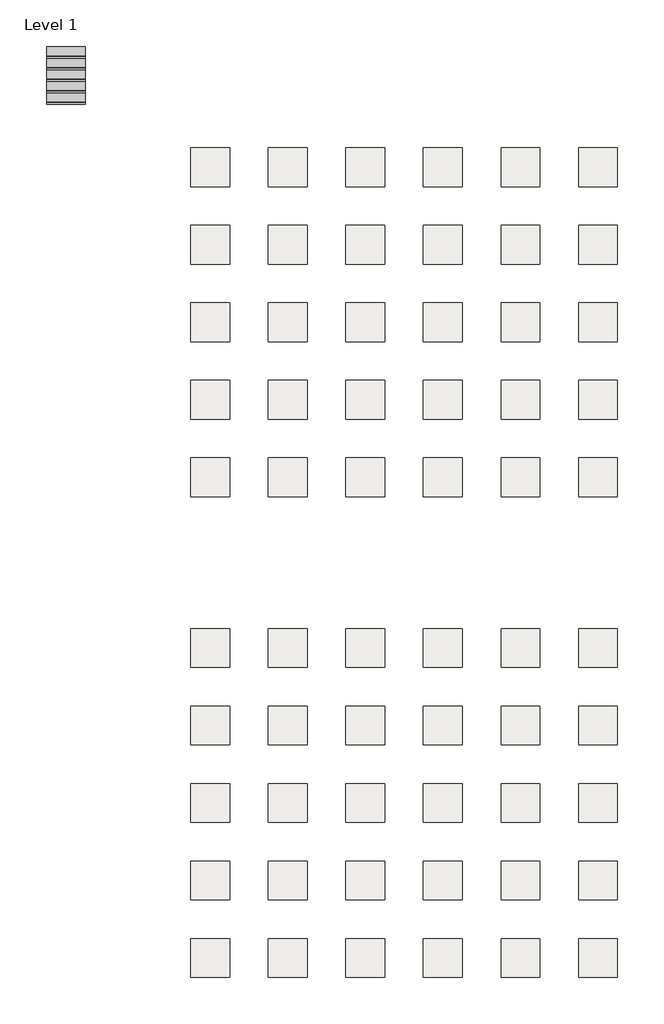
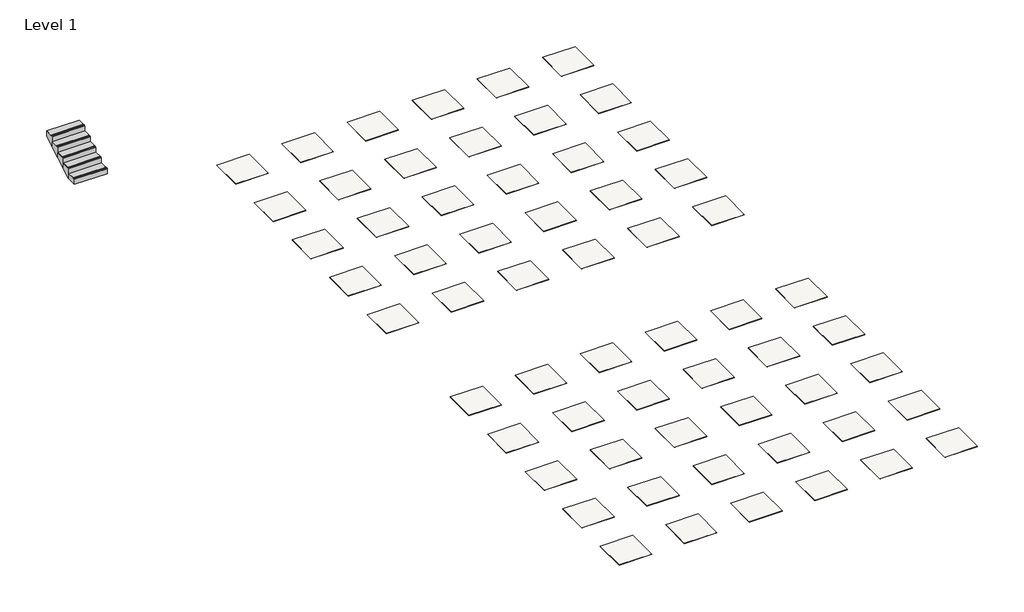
# One storey: 60 coverings, 1 stair flight.
"""IFC4 building model written with IfcOpenShell, lengths in millimetres."""

from ifc_helpers import new_model, si_unit, frame, origin, place, context, project, spatial, polyline, outline, extrude, faceted_brep, element, save

model = new_model("IFC4")

# Units and contexts
model_context = context("Model", 3, world=origin())
ifc_project = project(units=[si_unit("LENGTHUNIT", "METRE", prefix="MILLI")], contexts=[model_context])

# Site, building, storey
site = spatial("IfcSite", under=ifc_project)
building = spatial("IfcBuilding", under=site)
storey = spatial("IfcBuildingStorey", under=building, Name="Level 1", Elevation=0.0)

# Coverings
placement = place(None, origin())
element("IfcCovering", 1, ObjectType="REVIGRÉS-OMNISTONE-DG-30X60-MATTRECT-BONE", at=placement, inside=storey, context=model_context, shape_type="SweptSolid", body=[
    extrude(outline(polyline([(32008.2238844, 9811.2034686), (31008.2238844, 9811.2034686), (31008.2238844, 10811.2034686), (32008.2238844, 10811.2034686), (32008.2238844, 9811.2034686)])), frame((0.0, 0.0, -9.8), z_axis=(0.0, 0.0, 1.0), x_axis=(1.0, 0.0, 0.0)), (0.0, 0.0, 1.0), 9.8),
])
element("IfcCovering", 2, ObjectType="REVIGRÉS-OMNISTONE-DG-60X60-MATTRECT-BONE", at=placement, inside=storey, context=model_context, shape_type="SweptSolid", body=[
    extrude(outline(polyline([(32008.2238844, 13811.2034686), (31008.2238844, 13811.2034686), (31008.2238844, 14811.2034686), (32008.2238844, 14811.2034686), (32008.2238844, 13811.2034686)])), frame((0.0, 0.0, -9.8), z_axis=(0.0, 0.0, 1.0), x_axis=(1.0, 0.0, 0.0)), (0.0, 0.0, 1.0), 9.8),
])
element("IfcCovering", 3, ObjectType="REVIGRÉS-OMNISTONE-DG-60X120-MATTRECT-BONE", at=placement, inside=storey, context=model_context, shape_type="SweptSolid", body=[
    extrude(outline(polyline([(32008.2238844, 15811.2034686), (31008.2238844, 15811.2034686), (31008.2238844, 16811.2034686), (32008.2238844, 16811.2034686), (32008.2238844, 15811.2034686)])), frame((0.0, 0.0, -9.8), z_axis=(0.0, 0.0, 1.0), x_axis=(1.0, 0.0, 0.0)), (0.0, 0.0, 1.0), 9.8),
])
element("IfcCovering", 4, ObjectType="REVIGRÉS-OMNISTONE-DG-45X90-MATTRECT-BONE", at=placement, inside=storey, context=model_context, shape_type="SweptSolid", body=[
    extrude(outline(polyline([(32008.2238844, 17811.2034686), (31008.2238844, 17811.2034686), (31008.2238844, 18811.2034686), (32008.2238844, 18811.2034686), (32008.2238844, 17811.2034686)])), frame((0.0, 0.0, -10.5), z_axis=(0.0, 0.0, 1.0), x_axis=(1.0, 0.0, 0.0)), (0.0, 0.0, 1.0), 10.5),
])
element("IfcCovering", 5, ObjectType="REVIGRÉS-OMNISTONE-DG-30X60-SOFT-BONE", at=placement, inside=storey, context=model_context, shape_type="SweptSolid", body=[
    extrude(outline(polyline([(34008.2238844, 9811.2034686), (33008.2238844, 9811.2034686), (33008.2238844, 10811.2034686), (34008.2238844, 10811.2034686), (34008.2238844, 9811.2034686)])), frame((0.0, 0.0, -9.8), z_axis=(0.0, 0.0, 1.0), x_axis=(1.0, 0.0, 0.0)), (0.0, 0.0, 1.0), 9.8),
])
element("IfcCovering", 6, ObjectType="REVIGRÉS-OMNISTONE-DG-60X60-SOFT-BONE", at=placement, inside=storey, context=model_context, shape_type="SweptSolid", body=[
    extrude(outline(polyline([(34008.2238844, 13811.2034686), (33008.2238844, 13811.2034686), (33008.2238844, 14811.2034686), (34008.2238844, 14811.2034686), (34008.2238844, 13811.2034686)])), frame((0.0, 0.0, -9.8), z_axis=(0.0, 0.0, 1.0), x_axis=(1.0, 0.0, 0.0)), (0.0, 0.0, 1.0), 9.8),
])
element("IfcCovering", 7, ObjectType="REVIGRÉS-OMNISTONE-DG-60X120-SOFT-BONE", at=placement, inside=storey, context=model_context, shape_type="SweptSolid", body=[
    extrude(outline(polyline([(34008.2238844, 15811.2034686), (33008.2238844, 15811.2034686), (33008.2238844, 16811.2034686), (34008.2238844, 16811.2034686), (34008.2238844, 15811.2034686)])), frame((0.0, 0.0, -9.8), z_axis=(0.0, 0.0, 1.0), x_axis=(1.0, 0.0, 0.0)), (0.0, 0.0, 1.0), 9.8),
])
element("IfcCovering", 8, ObjectType="REVIGRÉS-OMNISTONE-DG-45X90-SOFT-BONE", at=placement, inside=storey, context=model_context, shape_type="SweptSolid", body=[
    extrude(outline(polyline([(34008.2238844, 17811.2034686), (33008.2238844, 17811.2034686), (33008.2238844, 18811.2034686), (34008.2238844, 18811.2034686), (34008.2238844, 17811.2034686)])), frame((0.0, 0.0, -10.5), z_axis=(0.0, 0.0, 1.0), x_axis=(1.0, 0.0, 0.0)), (0.0, 0.0, 1.0), 10.5),
])
element("IfcCovering", 9, ObjectType="REVIGRÉS-OMNISTONE-DG-30X60-MATTRECT-ICE", at=placement, inside=storey, context=model_context, shape_type="SweptSolid", body=[
    extrude(outline(polyline([(36008.2238844, 9811.2034686), (35008.2238844, 9811.2034686), (35008.2238844, 10811.2034686), (36008.2238844, 10811.2034686), (36008.2238844, 9811.2034686)])), frame((0.0, 0.0, -9.8), z_axis=(0.0, 0.0, 1.0), x_axis=(1.0, 0.0, 0.0)), (0.0, 0.0, 1.0), 9.8),
])
element("IfcCovering", 10, ObjectType="REVIGRÉS-OMNISTONE-DG-60X60-MATTRECT-ICE", at=placement, inside=storey, context=model_context, shape_type="SweptSolid", body=[
    extrude(outline(polyline([(36008.2238844, 13811.2034686), (35008.2238844, 13811.2034686), (35008.2238844, 14811.2034686), (36008.2238844, 14811.2034686), (36008.2238844, 13811.2034686)])), frame((0.0, 0.0, -9.8), z_axis=(0.0, 0.0, 1.0), x_axis=(1.0, 0.0, 0.0)), (0.0, 0.0, 1.0), 9.8),
])
element("IfcCovering", 11, ObjectType="REVIGRÉS-OMNISTONE-DG-60X120-MATTRECT-ICE", at=placement, inside=storey, context=model_context, shape_type="SweptSolid", body=[
    extrude(outline(polyline([(36008.2238844, 15811.2034686), (35008.2238844, 15811.2034686), (35008.2238844, 16811.2034686), (36008.2238844, 16811.2034686), (36008.2238844, 15811.2034686)])), frame((0.0, 0.0, -9.8), z_axis=(0.0, 0.0, 1.0), x_axis=(1.0, 0.0, 0.0)), (0.0, 0.0, 1.0), 9.8),
])
element("IfcCovering", 12, ObjectType="REVIGRÉS-OMNISTONE-DG-45X90-MATTRECT-ICE", at=placement, inside=storey, context=model_context, shape_type="SweptSolid", body=[
    extrude(outline(polyline([(36008.2238844, 17811.2034686), (35008.2238844, 17811.2034686), (35008.2238844, 18811.2034686), (36008.2238844, 18811.2034686), (36008.2238844, 17811.2034686)])), frame((0.0, 0.0, -10.5), z_axis=(0.0, 0.0, 1.0), x_axis=(1.0, 0.0, 0.0)), (0.0, 0.0, 1.0), 10.5),
])
element("IfcCovering", 13, ObjectType="REVIGRÉS-OMNISTONE-DG-30X60-SOFT-ICE", at=placement, inside=storey, context=model_context, shape_type="SweptSolid", body=[
    extrude(outline(polyline([(38008.2238844, 9811.2034686), (37008.2238844, 9811.2034686), (37008.2238844, 10811.2034686), (38008.2238844, 10811.2034686), (38008.2238844, 9811.2034686)])), frame((0.0, 0.0, -9.8), z_axis=(0.0, 0.0, 1.0), x_axis=(1.0, 0.0, 0.0)), (0.0, 0.0, 1.0), 9.8),
])
element("IfcCovering", 14, ObjectType="REVIGRÉS-OMNISTONE-DG-60X60-SOFT-ICE", at=placement, inside=storey, context=model_context, shape_type="SweptSolid", body=[
    extrude(outline(polyline([(38008.2238844, 13811.2034686), (37008.2238844, 13811.2034686), (37008.2238844, 14811.2034686), (38008.2238844, 14811.2034686), (38008.2238844, 13811.2034686)])), frame((0.0, 0.0, -9.8), z_axis=(0.0, 0.0, 1.0), x_axis=(1.0, 0.0, 0.0)), (0.0, 0.0, 1.0), 9.8),
])
element("IfcCovering", 15, ObjectType="REVIGRÉS-OMNISTONE-DG-60X120-SOFT-ICE", at=placement, inside=storey, context=model_context, shape_type="SweptSolid", body=[
    extrude(outline(polyline([(38008.2238844, 15811.2034686), (37008.2238844, 15811.2034686), (37008.2238844, 16811.2034686), (38008.2238844, 16811.2034686), (38008.2238844, 15811.2034686)])), frame((0.0, 0.0, -9.8), z_axis=(0.0, 0.0, 1.0), x_axis=(1.0, 0.0, 0.0)), (0.0, 0.0, 1.0), 9.8),
])
element("IfcCovering", 16, ObjectType="REVIGRÉS-OMNISTONE-DG-45X90-SOFT-ICE", at=placement, inside=storey, context=model_context, shape_type="SweptSolid", body=[
    extrude(outline(polyline([(38008.2238844, 17811.2034686), (37008.2238844, 17811.2034686), (37008.2238844, 18811.2034686), (38008.2238844, 18811.2034686), (38008.2238844, 17811.2034686)])), frame((0.0, 0.0, -10.5), z_axis=(0.0, 0.0, 1.0), x_axis=(1.0, 0.0, 0.0)), (0.0, 0.0, 1.0), 10.5),
])
element("IfcCovering", 17, ObjectType="REVIGRÉS-OMNISTONE-DG-30X60-MATTRECT-IRON", at=placement, inside=storey, context=model_context, shape_type="SweptSolid", body=[
    extrude(outline(polyline([(40008.2238844, 9811.2034686), (39008.2238844, 9811.2034686), (39008.2238844, 10811.2034686), (40008.2238844, 10811.2034686), (40008.2238844, 9811.2034686)])), frame((0.0, 0.0, -9.8), z_axis=(0.0, 0.0, 1.0), x_axis=(1.0, 0.0, 0.0)), (0.0, 0.0, 1.0), 9.8),
])
element("IfcCovering", 18, ObjectType="REVIGRÉS-OMNISTONE-DG-60X60-MATTRECT-IRON", at=placement, inside=storey, context=model_context, shape_type="SweptSolid", body=[
    extrude(outline(polyline([(40008.2238844, 13811.2034686), (39008.2238844, 13811.2034686), (39008.2238844, 14811.2034686), (40008.2238844, 14811.2034686), (40008.2238844, 13811.2034686)])), frame((0.0, 0.0, -9.8), z_axis=(0.0, 0.0, 1.0), x_axis=(1.0, 0.0, 0.0)), (0.0, 0.0, 1.0), 9.8),
])
element("IfcCovering", 19, ObjectType="REVIGRÉS-OMNISTONE-DG-60X120-MATTRECT-IRON", at=placement, inside=storey, context=model_context, shape_type="SweptSolid", body=[
    extrude(outline(polyline([(40008.2238844, 15811.2034686), (39008.2238844, 15811.2034686), (39008.2238844, 16811.2034686), (40008.2238844, 16811.2034686), (40008.2238844, 15811.2034686)])), frame((0.0, 0.0, -9.8), z_axis=(0.0, 0.0, 1.0), x_axis=(1.0, 0.0, 0.0)), (0.0, 0.0, 1.0), 9.8),
])
element("IfcCovering", 20, ObjectType="REVIGRÉS-OMNISTONE-DG-45X90-MATTRECT-IRON", at=placement, inside=storey, context=model_context, shape_type="SweptSolid", body=[
    extrude(outline(polyline([(40008.2238844, 17811.2034686), (39008.2238844, 17811.2034686), (39008.2238844, 18811.2034686), (40008.2238844, 18811.2034686), (40008.2238844, 17811.2034686)])), frame((0.0, 0.0, -10.5), z_axis=(0.0, 0.0, 1.0), x_axis=(1.0, 0.0, 0.0)), (0.0, 0.0, 1.0), 10.5),
])
element("IfcCovering", 21, ObjectType="REVIGRÉS-OMNISTONE-DG-30X60-SOFT-IRON", at=placement, inside=storey, context=model_context, shape_type="SweptSolid", body=[
    extrude(outline(polyline([(42008.2238844, 9811.2034686), (41008.2238844, 9811.2034686), (41008.2238844, 10811.2034686), (42008.2238844, 10811.2034686), (42008.2238844, 9811.2034686)])), frame((0.0, 0.0, -9.8), z_axis=(0.0, 0.0, 1.0), x_axis=(1.0, 0.0, 0.0)), (0.0, 0.0, 1.0), 9.8),
])
element("IfcCovering", 22, ObjectType="REVIGRÉS-OMNISTONE-DG-60X60-SOFT-IRON", at=placement, inside=storey, context=model_context, shape_type="SweptSolid", body=[
    extrude(outline(polyline([(42008.2238844, 13811.2034686), (41008.2238844, 13811.2034686), (41008.2238844, 14811.2034686), (42008.2238844, 14811.2034686), (42008.2238844, 13811.2034686)])), frame((0.0, 0.0, -9.8), z_axis=(0.0, 0.0, 1.0), x_axis=(1.0, 0.0, 0.0)), (0.0, 0.0, 1.0), 9.8),
])
element("IfcCovering", 23, ObjectType="REVIGRÉS-OMNISTONE-DG-60X120-SOFT-IRON", at=placement, inside=storey, context=model_context, shape_type="SweptSolid", body=[
    extrude(outline(polyline([(42008.2238844, 15811.2034686), (41008.2238844, 15811.2034686), (41008.2238844, 16811.2034686), (42008.2238844, 16811.2034686), (42008.2238844, 15811.2034686)])), frame((0.0, 0.0, -9.8), z_axis=(0.0, 0.0, 1.0), x_axis=(1.0, 0.0, 0.0)), (0.0, 0.0, 1.0), 9.8),
])
element("IfcCovering", 24, ObjectType="REVIGRÉS-OMNISTONE-DG-45X90-SOFT-IRON", at=placement, inside=storey, context=model_context, shape_type="SweptSolid", body=[
    extrude(outline(polyline([(42008.2238844, 17811.2034686), (41008.2238844, 17811.2034686), (41008.2238844, 18811.2034686), (42008.2238844, 18811.2034686), (42008.2238844, 17811.2034686)])), frame((0.0, 0.0, -10.5), z_axis=(0.0, 0.0, 1.0), x_axis=(1.0, 0.0, 0.0)), (0.0, 0.0, 1.0), 10.5),
])
element("IfcCovering", 25, ObjectType="REVIGRÉS-OMNISTONE-DG-30X60-MATTRECT-JET", at=placement, inside=storey, context=model_context, shape_type="SweptSolid", body=[
    extrude(outline(polyline([(32008.2238844, -2588.7965314), (31008.2238844, -2588.7965314), (31008.2238844, -1588.7965314), (32008.2238844, -1588.7965314), (32008.2238844, -2588.7965314)])), frame((0.0, 0.0, -9.8), z_axis=(0.0, 0.0, 1.0), x_axis=(1.0, 0.0, 0.0)), (0.0, 0.0, 1.0), 9.8),
])
element("IfcCovering", 26, ObjectType="REVIGRÉS-OMNISTONE-DG-60X60-MATTRECT-JET", at=placement, inside=storey, context=model_context, shape_type="SweptSolid", body=[
    extrude(outline(polyline([(32008.2238844, 1411.2034686), (31008.2238844, 1411.2034686), (31008.2238844, 2411.2034686), (32008.2238844, 2411.2034686), (32008.2238844, 1411.2034686)])), frame((0.0, 0.0, -9.8), z_axis=(0.0, 0.0, 1.0), x_axis=(1.0, 0.0, 0.0)), (0.0, 0.0, 1.0), 9.8),
])
element("IfcCovering", 27, ObjectType="REVIGRÉS-OMNISTONE-DG-60X120-MATTRECT-JET", at=placement, inside=storey, context=model_context, shape_type="SweptSolid", body=[
    extrude(outline(polyline([(32008.2238844, 3411.2034686), (31008.2238844, 3411.2034686), (31008.2238844, 4411.2034686), (32008.2238844, 4411.2034686), (32008.2238844, 3411.2034686)])), frame((0.0, 0.0, -9.8), z_axis=(0.0, 0.0, 1.0), x_axis=(1.0, 0.0, 0.0)), (0.0, 0.0, 1.0), 9.8),
])
element("IfcCovering", 28, ObjectType="REVIGRÉS-OMNISTONE-DG-45X90-MATTRECT-JET", at=placement, inside=storey, context=model_context, shape_type="SweptSolid", body=[
    extrude(outline(polyline([(32008.2238844, 5411.2034686), (31008.2238844, 5411.2034686), (31008.2238844, 6411.2034686), (32008.2238844, 6411.2034686), (32008.2238844, 5411.2034686)])), frame((0.0, 0.0, -10.5), z_axis=(0.0, 0.0, 1.0), x_axis=(1.0, 0.0, 0.0)), (0.0, 0.0, 1.0), 10.5),
])
element("IfcCovering", 29, ObjectType="REVIGRÉS-OMNISTONE-DG-30X60-SOFT-JET", at=placement, inside=storey, context=model_context, shape_type="SweptSolid", body=[
    extrude(outline(polyline([(34008.2238844, -2588.7965314), (33008.2238844, -2588.7965314), (33008.2238844, -1588.7965314), (34008.2238844, -1588.7965314), (34008.2238844, -2588.7965314)])), frame((0.0, 0.0, -9.8), z_axis=(0.0, 0.0, 1.0), x_axis=(1.0, 0.0, 0.0)), (0.0, 0.0, 1.0), 9.8),
])
element("IfcCovering", 30, ObjectType="REVIGRÉS-OMNISTONE-DG-60X60-SOFT-JET", at=placement, inside=storey, context=model_context, shape_type="SweptSolid", body=[
    extrude(outline(polyline([(34008.2238844, 1411.2034686), (33008.2238844, 1411.2034686), (33008.2238844, 2411.2034686), (34008.2238844, 2411.2034686), (34008.2238844, 1411.2034686)])), frame((0.0, 0.0, -9.8), z_axis=(0.0, 0.0, 1.0), x_axis=(1.0, 0.0, 0.0)), (0.0, 0.0, 1.0), 9.8),
])
element("IfcCovering", 31, ObjectType="REVIGRÉS-OMNISTONE-DG-60X120-SOFT-JET", at=placement, inside=storey, context=model_context, shape_type="SweptSolid", body=[
    extrude(outline(polyline([(34008.2238844, 3411.2034686), (33008.2238844, 3411.2034686), (33008.2238844, 4411.2034686), (34008.2238844, 4411.2034686), (34008.2238844, 3411.2034686)])), frame((0.0, 0.0, -9.8), z_axis=(0.0, 0.0, 1.0), x_axis=(1.0, 0.0, 0.0)), (0.0, 0.0, 1.0), 9.8),
])
element("IfcCovering", 32, ObjectType="REVIGRÉS-OMNISTONE-DG-45X90-SOFT-JET", at=placement, inside=storey, context=model_context, shape_type="SweptSolid", body=[
    extrude(outline(polyline([(34008.2238844, 5411.2034686), (33008.2238844, 5411.2034686), (33008.2238844, 6411.2034686), (34008.2238844, 6411.2034686), (34008.2238844, 5411.2034686)])), frame((0.0, 0.0, -10.5), z_axis=(0.0, 0.0, 1.0), x_axis=(1.0, 0.0, 0.0)), (0.0, 0.0, 1.0), 10.5),
])
element("IfcCovering", 33, ObjectType="REVIGRÉS-OMNISTONE-DG-30X60-MATTRECT-PLATINA", at=placement, inside=storey, context=model_context, shape_type="SweptSolid", body=[
    extrude(outline(polyline([(36008.2238844, -2588.7965314), (35008.2238844, -2588.7965314), (35008.2238844, -1588.7965314), (36008.2238844, -1588.7965314), (36008.2238844, -2588.7965314)])), frame((0.0, 0.0, -9.8), z_axis=(0.0, 0.0, 1.0), x_axis=(1.0, 0.0, 0.0)), (0.0, 0.0, 1.0), 9.8),
])
element("IfcCovering", 34, ObjectType="REVIGRÉS-OMNISTONE-DG-60X60-MATTRECT-PLATINA", at=placement, inside=storey, context=model_context, shape_type="SweptSolid", body=[
    extrude(outline(polyline([(36008.2238844, 1411.2034686), (35008.2238844, 1411.2034686), (35008.2238844, 2411.2034686), (36008.2238844, 2411.2034686), (36008.2238844, 1411.2034686)])), frame((0.0, 0.0, -9.8), z_axis=(0.0, 0.0, 1.0), x_axis=(1.0, 0.0, 0.0)), (0.0, 0.0, 1.0), 9.8),
])
element("IfcCovering", 35, ObjectType="REVIGRÉS-OMNISTONE-DG-60X120-MATTRECT-PLATINA", at=placement, inside=storey, context=model_context, shape_type="SweptSolid", body=[
    extrude(outline(polyline([(36008.2238844, 3411.2034686), (35008.2238844, 3411.2034686), (35008.2238844, 4411.2034686), (36008.2238844, 4411.2034686), (36008.2238844, 3411.2034686)])), frame((0.0, 0.0, -9.8), z_axis=(0.0, 0.0, 1.0), x_axis=(1.0, 0.0, 0.0)), (0.0, 0.0, 1.0), 9.8),
])
element("IfcCovering", 36, ObjectType="REVIGRÉS-OMNISTONE-DG-45X90-MATTRECT-PLATINA", at=placement, inside=storey, context=model_context, shape_type="SweptSolid", body=[
    extrude(outline(polyline([(36008.2238844, 5411.2034686), (35008.2238844, 5411.2034686), (35008.2238844, 6411.2034686), (36008.2238844, 6411.2034686), (36008.2238844, 5411.2034686)])), frame((0.0, 0.0, -10.5), z_axis=(0.0, 0.0, 1.0), x_axis=(1.0, 0.0, 0.0)), (0.0, 0.0, 1.0), 10.5),
])
element("IfcCovering", 37, ObjectType="REVIGRÉS-OMNISTONE-DG-30X60-SOFT-PLATINA", at=placement, inside=storey, context=model_context, shape_type="SweptSolid", body=[
    extrude(outline(polyline([(38008.2238844, -2588.7965314), (37008.2238844, -2588.7965314), (37008.2238844, -1588.7965314), (38008.2238844, -1588.7965314), (38008.2238844, -2588.7965314)])), frame((0.0, 0.0, -9.8), z_axis=(0.0, 0.0, 1.0), x_axis=(1.0, 0.0, 0.0)), (0.0, 0.0, 1.0), 9.8),
])
element("IfcCovering", 38, ObjectType="REVIGRÉS-OMNISTONE-DG-60X60-SOFT-PLATINA", at=placement, inside=storey, context=model_context, shape_type="SweptSolid", body=[
    extrude(outline(polyline([(38008.2238844, 1411.2034686), (37008.2238844, 1411.2034686), (37008.2238844, 2411.2034686), (38008.2238844, 2411.2034686), (38008.2238844, 1411.2034686)])), frame((0.0, 0.0, -9.8), z_axis=(0.0, 0.0, 1.0), x_axis=(1.0, 0.0, 0.0)), (0.0, 0.0, 1.0), 9.8),
])
element("IfcCovering", 39, ObjectType="REVIGRÉS-OMNISTONE-DG-60X120-SOFT-PLATINA", at=placement, inside=storey, context=model_context, shape_type="SweptSolid", body=[
    extrude(outline(polyline([(38008.2238844, 3411.2034686), (37008.2238844, 3411.2034686), (37008.2238844, 4411.2034686), (38008.2238844, 4411.2034686), (38008.2238844, 3411.2034686)])), frame((0.0, 0.0, -9.8), z_axis=(0.0, 0.0, 1.0), x_axis=(1.0, 0.0, 0.0)), (0.0, 0.0, 1.0), 9.8),
])
element("IfcCovering", 40, ObjectType="REVIGRÉS-OMNISTONE-DG-45X90-SOFT-PLATINA", at=placement, inside=storey, context=model_context, shape_type="SweptSolid", body=[
    extrude(outline(polyline([(38008.2238844, 5411.2034686), (37008.2238844, 5411.2034686), (37008.2238844, 6411.2034686), (38008.2238844, 6411.2034686), (38008.2238844, 5411.2034686)])), frame((0.0, 0.0, -10.5), z_axis=(0.0, 0.0, 1.0), x_axis=(1.0, 0.0, 0.0)), (0.0, 0.0, 1.0), 10.5),
])
element("IfcCovering", 41, ObjectType="REVIGRÉS-OMNISTONE-DG-30X60-MATTRECT-ROPE", at=placement, inside=storey, context=model_context, shape_type="SweptSolid", body=[
    extrude(outline(polyline([(40008.2238844, -2588.7965314), (39008.2238844, -2588.7965314), (39008.2238844, -1588.7965314), (40008.2238844, -1588.7965314), (40008.2238844, -2588.7965314)])), frame((0.0, 0.0, -9.8), z_axis=(0.0, 0.0, 1.0), x_axis=(1.0, 0.0, 0.0)), (0.0, 0.0, 1.0), 9.8),
])
element("IfcCovering", 42, ObjectType="REVIGRÉS-OMNISTONE-DG-60X60-MATTRECT-ROPE", at=placement, inside=storey, context=model_context, shape_type="SweptSolid", body=[
    extrude(outline(polyline([(40008.2238844, 1411.2034686), (39008.2238844, 1411.2034686), (39008.2238844, 2411.2034686), (40008.2238844, 2411.2034686), (40008.2238844, 1411.2034686)])), frame((0.0, 0.0, -9.8), z_axis=(0.0, 0.0, 1.0), x_axis=(1.0, 0.0, 0.0)), (0.0, 0.0, 1.0), 9.8),
])
element("IfcCovering", 43, ObjectType="REVIGRÉS-OMNISTONE-DG-60X120-MATTRECT-ROPE", at=placement, inside=storey, context=model_context, shape_type="SweptSolid", body=[
    extrude(outline(polyline([(40008.2238844, 3411.2034686), (39008.2238844, 3411.2034686), (39008.2238844, 4411.2034686), (40008.2238844, 4411.2034686), (40008.2238844, 3411.2034686)])), frame((0.0, 0.0, -9.8), z_axis=(0.0, 0.0, 1.0), x_axis=(1.0, 0.0, 0.0)), (0.0, 0.0, 1.0), 9.8),
])
element("IfcCovering", 44, ObjectType="REVIGRÉS-OMNISTONE-DG-45X90-MATTRECT-ROPE", at=placement, inside=storey, context=model_context, shape_type="SweptSolid", body=[
    extrude(outline(polyline([(40008.2238844, 5411.2034686), (39008.2238844, 5411.2034686), (39008.2238844, 6411.2034686), (40008.2238844, 6411.2034686), (40008.2238844, 5411.2034686)])), frame((0.0, 0.0, -10.5), z_axis=(0.0, 0.0, 1.0), x_axis=(1.0, 0.0, 0.0)), (0.0, 0.0, 1.0), 10.5),
])
element("IfcCovering", 45, ObjectType="REVIGRÉS-OMNISTONE-DG-30X60-SOFT-ROPE", at=placement, inside=storey, context=model_context, shape_type="SweptSolid", body=[
    extrude(outline(polyline([(42008.2238844, -2588.7965314), (41008.2238844, -2588.7965314), (41008.2238844, -1588.7965314), (42008.2238844, -1588.7965314), (42008.2238844, -2588.7965314)])), frame((0.0, 0.0, -9.8), z_axis=(0.0, 0.0, 1.0), x_axis=(1.0, 0.0, 0.0)), (0.0, 0.0, 1.0), 9.8),
])
element("IfcCovering", 46, ObjectType="REVIGRÉS-OMNISTONE-DG-60X60-SOFT-ROPE", at=placement, inside=storey, context=model_context, shape_type="SweptSolid", body=[
    extrude(outline(polyline([(42008.2238844, 1411.2034686), (41008.2238844, 1411.2034686), (41008.2238844, 2411.2034686), (42008.2238844, 2411.2034686), (42008.2238844, 1411.2034686)])), frame((0.0, 0.0, -9.8), z_axis=(0.0, 0.0, 1.0), x_axis=(1.0, 0.0, 0.0)), (0.0, 0.0, 1.0), 9.8),
])
element("IfcCovering", 47, ObjectType="REVIGRÉS-OMNISTONE-DG-60X120-SOFT-ROPE", at=placement, inside=storey, context=model_context, shape_type="SweptSolid", body=[
    extrude(outline(polyline([(42008.2238844, 3411.2034686), (41008.2238844, 3411.2034686), (41008.2238844, 4411.2034686), (42008.2238844, 4411.2034686), (42008.2238844, 3411.2034686)])), frame((0.0, 0.0, -9.8), z_axis=(0.0, 0.0, 1.0), x_axis=(1.0, 0.0, 0.0)), (0.0, 0.0, 1.0), 9.8),
])
element("IfcCovering", 48, ObjectType="REVIGRÉS-OMNISTONE-DG-45X90-SOFT-ROPE", at=placement, inside=storey, context=model_context, shape_type="SweptSolid", body=[
    extrude(outline(polyline([(42008.2238844, 5411.2034686), (41008.2238844, 5411.2034686), (41008.2238844, 6411.2034686), (42008.2238844, 6411.2034686), (42008.2238844, 5411.2034686)])), frame((0.0, 0.0, -10.5), z_axis=(0.0, 0.0, 1.0), x_axis=(1.0, 0.0, 0.0)), (0.0, 0.0, 1.0), 10.5),
])
element("IfcCovering", 49, ObjectType="REVIGRÉS-OMNISTONE-DG-30X120-MATT RECT-BONE", at=placement, inside=storey, context=model_context, shape_type="SweptSolid", body=[
    extrude(outline(polyline([(32008.2238844, 11811.2034686), (31008.2238844, 11811.2034686), (31008.2238844, 12811.2034686), (32008.2238844, 12811.2034686), (32008.2238844, 11811.2034686)])), frame((0.0, 0.0, -9.8), z_axis=(0.0, 0.0, 1.0), x_axis=(1.0, 0.0, 0.0)), (0.0, 0.0, 1.0), 9.8),
])
element("IfcCovering", 50, ObjectType="REVIGRÉS-OMNISTONE-DG-30X120-SOFT-BONE", at=placement, inside=storey, context=model_context, shape_type="SweptSolid", body=[
    extrude(outline(polyline([(34008.2238844, 11811.2034686), (33008.2238844, 11811.2034686), (33008.2238844, 12811.2034686), (34008.2238844, 12811.2034686), (34008.2238844, 11811.2034686)])), frame((0.0, 0.0, -9.8), z_axis=(0.0, 0.0, 1.0), x_axis=(1.0, 0.0, 0.0)), (0.0, 0.0, 1.0), 9.8),
])
element("IfcCovering", 51, ObjectType="REVIGRÉS-OMNISTONE-DG-30X120-MATT RECT-ICE", at=placement, inside=storey, context=model_context, shape_type="SweptSolid", body=[
    extrude(outline(polyline([(36008.2238844, 11811.2034686), (35008.2238844, 11811.2034686), (35008.2238844, 12811.2034686), (36008.2238844, 12811.2034686), (36008.2238844, 11811.2034686)])), frame((0.0, 0.0, -9.8), z_axis=(0.0, 0.0, 1.0), x_axis=(1.0, 0.0, 0.0)), (0.0, 0.0, 1.0), 9.8),
])
element("IfcCovering", 52, ObjectType="REVIGRÉS-OMNISTONE-DG-30X120-SOFT-ICE", at=placement, inside=storey, context=model_context, shape_type="SweptSolid", body=[
    extrude(outline(polyline([(38008.2238844, 11811.2034686), (37008.2238844, 11811.2034686), (37008.2238844, 12811.2034686), (38008.2238844, 12811.2034686), (38008.2238844, 11811.2034686)])), frame((0.0, 0.0, -9.8), z_axis=(0.0, 0.0, 1.0), x_axis=(1.0, 0.0, 0.0)), (0.0, 0.0, 1.0), 9.8),
])
element("IfcCovering", 53, ObjectType="REVIGRÉS-OMNISTONE-DG-30X120-MATT RECT-IRON", at=placement, inside=storey, context=model_context, shape_type="SweptSolid", body=[
    extrude(outline(polyline([(40008.2238844, 11811.2034686), (39008.2238844, 11811.2034686), (39008.2238844, 12811.2034686), (40008.2238844, 12811.2034686), (40008.2238844, 11811.2034686)])), frame((0.0, 0.0, -9.8), z_axis=(0.0, 0.0, 1.0), x_axis=(1.0, 0.0, 0.0)), (0.0, 0.0, 1.0), 9.8),
])
element("IfcCovering", 54, ObjectType="REVIGRÉS-OMNISTONE-DG-30X120-SOFT-IRON", at=placement, inside=storey, context=model_context, shape_type="SweptSolid", body=[
    extrude(outline(polyline([(42008.2238844, 11811.2034686), (41008.2238844, 11811.2034686), (41008.2238844, 12811.2034686), (42008.2238844, 12811.2034686), (42008.2238844, 11811.2034686)])), frame((0.0, 0.0, -9.8), z_axis=(0.0, 0.0, 1.0), x_axis=(1.0, 0.0, 0.0)), (0.0, 0.0, 1.0), 9.8),
])
element("IfcCovering", 55, ObjectType="REVIGRÉS-OMNISTONE-DG-30X120-MATT RECT-JET", at=placement, inside=storey, context=model_context, shape_type="SweptSolid", body=[
    extrude(outline(polyline([(32008.2238844, -588.7965314), (31008.2238844, -588.7965314), (31008.2238844, 411.2034686), (32008.2238844, 411.2034686), (32008.2238844, -588.7965314)])), frame((0.0, 0.0, -9.8), z_axis=(0.0, 0.0, 1.0), x_axis=(1.0, 0.0, 0.0)), (0.0, 0.0, 1.0), 9.8),
])
element("IfcCovering", 56, ObjectType="REVIGRÉS-OMNISTONE-DG-30X120-SOFT-JET", at=placement, inside=storey, context=model_context, shape_type="SweptSolid", body=[
    extrude(outline(polyline([(34008.2238844, -588.7965314), (33008.2238844, -588.7965314), (33008.2238844, 411.2034686), (34008.2238844, 411.2034686), (34008.2238844, -588.7965314)])), frame((0.0, 0.0, -9.8), z_axis=(0.0, 0.0, 1.0), x_axis=(1.0, 0.0, 0.0)), (0.0, 0.0, 1.0), 9.8),
])
element("IfcCovering", 57, ObjectType="REVIGRÉS-OMNISTONE-DG-30X120-MATT RECT-PLATINA", at=placement, inside=storey, context=model_context, shape_type="SweptSolid", body=[
    extrude(outline(polyline([(36008.2238844, -588.7965314), (35008.2238844, -588.7965314), (35008.2238844, 411.2034686), (36008.2238844, 411.2034686), (36008.2238844, -588.7965314)])), frame((0.0, 0.0, -9.8), z_axis=(0.0, 0.0, 1.0), x_axis=(1.0, 0.0, 0.0)), (0.0, 0.0, 1.0), 9.8),
])
element("IfcCovering", 58, ObjectType="REVIGRÉS-OMNISTONE-DG-30X120-SOFT-PLATINA", at=placement, inside=storey, context=model_context, shape_type="SweptSolid", body=[
    extrude(outline(polyline([(38008.2238844, -588.7965314), (37008.2238844, -588.7965314), (37008.2238844, 411.2034686), (38008.2238844, 411.2034686), (38008.2238844, -588.7965314)])), frame((0.0, 0.0, -9.8), z_axis=(0.0, 0.0, 1.0), x_axis=(1.0, 0.0, 0.0)), (0.0, 0.0, 1.0), 9.8),
])
element("IfcCovering", 59, ObjectType="REVIGRÉS-OMNISTONE-DG-30X120-MATT RECT-ROPE", at=placement, inside=storey, context=model_context, shape_type="SweptSolid", body=[
    extrude(outline(polyline([(40008.2238844, -588.7965314), (39008.2238844, -588.7965314), (39008.2238844, 411.2034686), (40008.2238844, 411.2034686), (40008.2238844, -588.7965314)])), frame((0.0, 0.0, -9.8), z_axis=(0.0, 0.0, 1.0), x_axis=(1.0, 0.0, 0.0)), (0.0, 0.0, 1.0), 9.8),
])
element("IfcCovering", 60, ObjectType="REVIGRÉS-OMNISTONE-DG-30X120-SOFT-ROPE", at=placement, inside=storey, context=model_context, shape_type="SweptSolid", body=[
    extrude(outline(polyline([(42008.2238844, -588.7965314), (41008.2238844, -588.7965314), (41008.2238844, 411.2034686), (42008.2238844, 411.2034686), (42008.2238844, -588.7965314)])), frame((0.0, 0.0, -9.8), z_axis=(0.0, 0.0, 1.0), x_axis=(1.0, 0.0, 0.0)), (0.0, 0.0, 1.0), 9.8),
])

# Stair flight
element("IfcStairFlight", 61, ObjectType="REVIGRÉS-OMNISTONE-DG-30x60-MATTRECT-SOFT", at=placement, inside=storey, context=model_context, shape_type="SolidModel", body=[
    faceted_brep([(27285.7241902, 20233.6496515, 156.8666667), (27285.7241902, 19936.6496515, 156.8666667), (28285.7241902, 19936.6496515, 156.8666667), (28285.7241902, 20233.6496515, 156.8666667), (27285.7241902, 20233.6496515, 0.0), (27285.7241902, 19936.6496515, 0.0), (28285.7241902, 19936.6496515, 0.0), (28285.7241902, 20233.6496515, 0.0), (27285.7241902, 20530.6496515, 323.5333333), (27285.7241902, 20233.6496515, 323.5333333), (28285.7241902, 20233.6496515, 323.5333333), (28285.7241902, 20530.6496515, 323.5333333), (27285.7241902, 20530.6496515, 151.5291334), (27285.7241902, 20260.6247358, 0.0), (28285.7241902, 20260.6247358, 0.0), (28285.7241902, 20530.6496515, 151.5291334), (27285.7241902, 20827.6496515, 490.2), (27285.7241902, 20530.6496515, 490.2), (28285.7241902, 20530.6496515, 490.2), (28285.7241902, 20827.6496515, 490.2), (27285.7241902, 20827.6496515, 318.1958001), (28285.7241902, 20827.6496515, 318.1958001), (27285.7241902, 21124.6496515, 656.8666667), (27285.7241902, 20827.6496515, 656.8666667), (28285.7241902, 20827.6496515, 656.8666667), (28285.7241902, 21124.6496515, 656.8666667), (27285.7241902, 21124.6496515, 484.8624667), (28285.7241902, 21124.6496515, 484.8624667), (27285.7241902, 21421.6496515, 823.5333333), (27285.7241902, 21124.6496515, 823.5333333), (28285.7241902, 21124.6496515, 823.5333333), (28285.7241902, 21421.6496515, 823.5333333), (27285.7241902, 21421.6496515, 651.5291334), (28285.7241902, 21421.6496515, 651.5291334)], [[[0, 1, 2, 3]], [[1, 0, 4, 5]], [[2, 1, 5, 6]], [[3, 2, 6, 7]], [[8, 9, 10, 11]], [[4, 0, 9, 8, 12, 13]], [[0, 3, 10, 9]], [[3, 7, 14, 15, 11, 10]], [[16, 17, 18, 19]], [[17, 16, 20, 12, 8]], [[8, 11, 18, 17]], [[19, 18, 11, 15, 21]], [[22, 23, 24, 25]], [[23, 22, 26, 20, 16]], [[16, 19, 24, 23]], [[25, 24, 19, 21, 27]], [[28, 29, 30, 31]], [[29, 28, 32, 26, 22]], [[22, 25, 30, 29]], [[31, 30, 25, 27, 33]], [[28, 31, 33, 32]], [[5, 4, 13, 14, 7, 6]], [[14, 13, 12, 20, 26, 32, 33, 27, 21, 15]]]),
    extrude(outline(polyline([(19966.6496515, 166.6666667), (19966.6496515, 165.6666667), (19971.6496515, 165.6666667), (19971.6496515, 166.6666667), (19981.6496515, 166.6666667), (19981.6496515, 165.6666667), (19986.6496515, 165.6666667), (19986.6496515, 166.6666667), (19996.6496515, 166.6666667), (19996.6496515, 165.6666667), (20001.6496515, 165.6666667), (20001.6496515, 166.6666667), (20233.6496515, 166.6666667), (20233.6496515, 156.8666667), (19936.6496515, 156.8666667), (19936.6496515, 166.6666667), (19966.6496515, 166.6666667)])), frame((27285.7241902, 0.0, 0.0), z_axis=(1.0, 0.0, 0.0), x_axis=(0.0, 1.0, 0.0)), (0.0, 0.0, 1.0), 1000.0),
    extrude(outline(polyline([(20263.6496515, 333.3333333), (20263.6496515, 332.3333333), (20268.6496515, 332.3333333), (20268.6496515, 333.3333333), (20278.6496515, 333.3333333), (20278.6496515, 332.3333333), (20283.6496515, 332.3333333), (20283.6496515, 333.3333333), (20293.6496515, 333.3333333), (20293.6496515, 332.3333333), (20298.6496515, 332.3333333), (20298.6496515, 333.3333333), (20530.6496515, 333.3333333), (20530.6496515, 323.5333333), (20233.6496515, 323.5333333), (20233.6496515, 333.3333333), (20263.6496515, 333.3333333)])), frame((27285.7241902, 0.0, 0.0), z_axis=(1.0, 0.0, 0.0), x_axis=(0.0, 1.0, 0.0)), (0.0, 0.0, 1.0), 1000.0),
    extrude(outline(polyline([(20560.6496515, 500.0), (20560.6496515, 499.0), (20565.6496515, 499.0), (20565.6496515, 500.0), (20575.6496515, 500.0), (20575.6496515, 499.0), (20580.6496515, 499.0), (20580.6496515, 500.0), (20590.6496515, 500.0), (20590.6496515, 499.0), (20595.6496515, 499.0), (20595.6496515, 500.0), (20827.6496515, 500.0), (20827.6496515, 490.2), (20530.6496515, 490.2), (20530.6496515, 500.0), (20560.6496515, 500.0)])), frame((27285.7241902, 0.0, 0.0), z_axis=(1.0, 0.0, 0.0), x_axis=(0.0, 1.0, 0.0)), (0.0, 0.0, 1.0), 1000.0),
    extrude(outline(polyline([(20857.6496515, 666.6666667), (20857.6496515, 665.6666667), (20862.6496515, 665.6666667), (20862.6496515, 666.6666667), (20872.6496515, 666.6666667), (20872.6496515, 665.6666667), (20877.6496515, 665.6666667), (20877.6496515, 666.6666667), (20887.6496515, 666.6666667), (20887.6496515, 665.6666667), (20892.6496515, 665.6666667), (20892.6496515, 666.6666667), (21124.6496515, 666.6666667), (21124.6496515, 656.8666667), (20827.6496515, 656.8666667), (20827.6496515, 666.6666667), (20857.6496515, 666.6666667)])), frame((27285.7241902, 0.0, 0.0), z_axis=(1.0, 0.0, 0.0), x_axis=(0.0, 1.0, 0.0)), (0.0, 0.0, 1.0), 1000.0),
    extrude(outline(polyline([(21154.6496515, 833.3333333), (21154.6496515, 832.3333333), (21159.6496515, 832.3333333), (21159.6496515, 833.3333333), (21169.6496515, 833.3333333), (21169.6496515, 832.3333333), (21174.6496515, 832.3333333), (21174.6496515, 833.3333333), (21184.6496515, 833.3333333), (21184.6496515, 832.3333333), (21189.6496515, 832.3333333), (21189.6496515, 833.3333333), (21421.6496515, 833.3333333), (21421.6496515, 823.5333333), (21124.6496515, 823.5333333), (21124.6496515, 833.3333333), (21154.6496515, 833.3333333)])), frame((27285.7241902, 0.0, 0.0), z_axis=(1.0, 0.0, 0.0), x_axis=(0.0, 1.0, 0.0)), (0.0, 0.0, 1.0), 1000.0),
])

save(model, "model.ifc")
